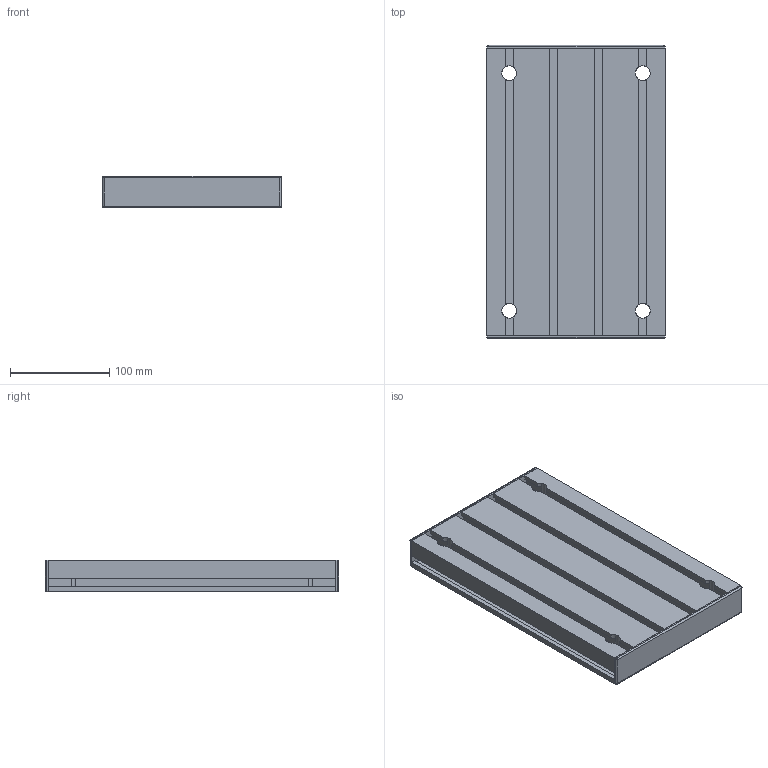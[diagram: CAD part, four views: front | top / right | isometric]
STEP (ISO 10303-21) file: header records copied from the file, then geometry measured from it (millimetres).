
FILE_DESCRIPTION((''),'2;1');
FILE_NAME('C:\Documents and Settings\Administrator\My Documents\Andys Backup Data\ANDY''S INVENTOR\INVENTOR LIBRARIES\MINITEC INVENTOR LIBRARIES\FEET WHEELS FLOOR FASTENING SUPPORTS\A PACKED FILES\STEP FILES\21.1735 FLOOR MOUNTING PLATE 180.stp','2010-06-28T08:44:48',('Administrator'),(''),'Autodesk Inventor 2009','Autodesk Inventor 2009','');
FILE_SCHEMA(('CONFIG_CONTROL_DESIGN'));
Length unit declared in the file: millimetre
Products named in the file (3): 21.1735 FLOOR MOUNTING PLATE 180; 22.1059_1 END CAP 32X180 GRAY
Assembly tree (3 placements, depth 2):
  21.1735 FLOOR MOUNTING PLATE 180
    21.1735 FLOOR MOUNTING PLATE 180
    22.1059_1 END CAP 32X180 GRAY  x2
Bounding box: 180 x 296 x 32 mm (x, y, z)
Volume: 1059853.2 mm3; surface area: 331957.7 mm2
Topology: 3 solids, 3 shells, 229 faces, 635 edges, 408 vertices
Faces by surface type: plane 168, cylinder 47, bspline 8, torus 6
Full cylindrical faces by diameter (mm): 4.75 x6, 7.5 x11, 7.65 x6, 15 x4
Entity records: 7048 total; most frequent: CARTESIAN_POINT 1890, ORIENTED_EDGE 1054, DIRECTION 1012, EDGE_CURVE 527, VECTOR 414, LINE 414, VERTEX_POINT 361, AXIS2_PLACEMENT_3D 299
